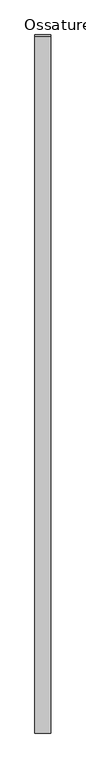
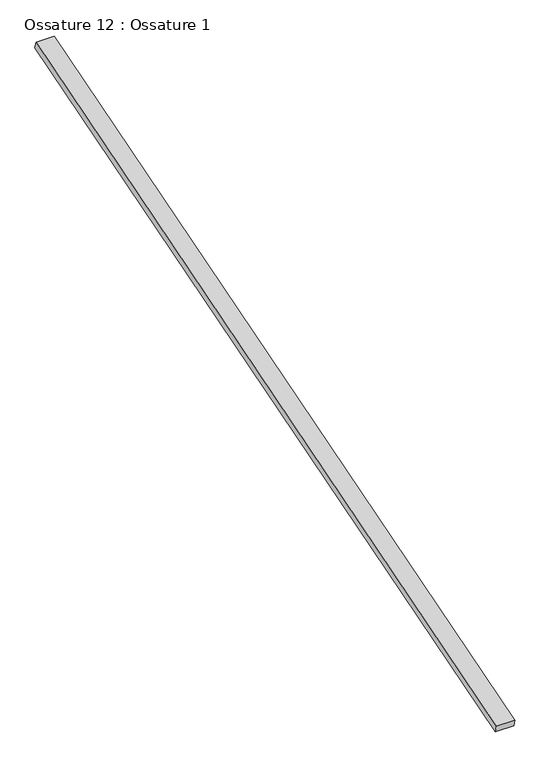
"""IFC4 building model written with IfcOpenShell, lengths in millimetres: beam geometry, Ossature 12 : Ossature 1."""

from ifc_helpers import new_model, si_unit, frame, origin, place, context, project, spatial, polyline, outline, extrude, source, transform, mapped, element, save


def ossature_12_ossature_1_4ab5d11f(model_context):
    return source(origin(), model_context, "Body", "SweptSolid", [
        extrude(outline(polyline([(0.0, 0.0), (0.0, -4543.0299679), (-100.0, -4543.0299679), (-100.0, 0.0), (0.0, 0.0)])), frame((3169.2466393, -833.3913565, 8153.6336115), z_axis=(0.0, -0.28734788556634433, 0.9578262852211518), x_axis=(-1.0, 0.0, 0.0)), (0.0, 0.0, 1.0), 40.0),
    ])


if __name__ == "__main__":
    model = new_model("IFC4")
    model_context = context("Model", 3, world=origin())
    ifc_project = project(units=[si_unit("LENGTHUNIT", "METRE", prefix="MILLI")], contexts=[model_context])
    site = spatial("IfcSite", under=ifc_project)
    building = spatial("IfcBuilding", under=site)
    placement = place(None, origin())
    ossature_12_ossature_1_shape = ossature_12_ossature_1_4ab5d11f(model_context)
    element("IfcBeam", 1, ObjectType="Ossature 12 : Ossature 1", at=placement, inside=building, context=model_context, shape_type="MappedRepresentation", body=[
        mapped(ossature_12_ossature_1_shape, transform((0.0, 0.0, 0.0), x_axis=(1.0, 0.0, 0.0), y_axis=(0.0, 1.0, 0.0), z_axis=(0.0, 0.0, 1.0))),
    ])
    save(model, "model.ifc")
